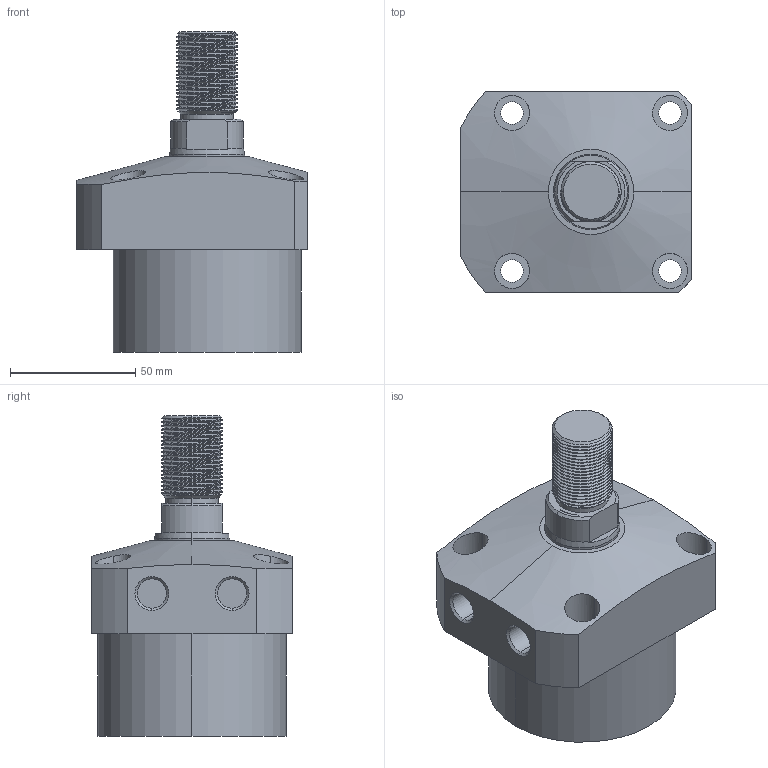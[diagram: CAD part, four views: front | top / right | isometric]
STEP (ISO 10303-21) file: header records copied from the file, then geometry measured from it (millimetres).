
FILE_DESCRIPTION (( 'STEP AP203' ), '1' );
FILE_NAME ('CLL-075CT-025.STEP', '2020-01-08T11:49:15', ( '' ), ( '' ), 'SwSTEP 2.0', 'SolidWorks 2015', '' );
FILE_SCHEMA (( 'CONFIG_CONTROL_DESIGN' ));
Length unit declared in the file: millimetre
Products named in the file (1): CLL-075CT-025
Bounding box: 92 x 80 x 128 mm (x, y, z)
Volume: 424401.1 mm3; surface area: 43928.4 mm2
Topology: 1 solids, 1 shells, 122 faces, 312 edges, 204 vertices
Faces by surface type: cylinder 77, plane 25, cone 16, bspline 4
Entity records: 7950 total; most frequent: CARTESIAN_POINT 5154, ORIENTED_EDGE 624, DIRECTION 511, EDGE_CURVE 312, VERTEX_POINT 204, AXIS2_PLACEMENT_3D 199, EDGE_LOOP 142, FACE_OUTER_BOUND 122
